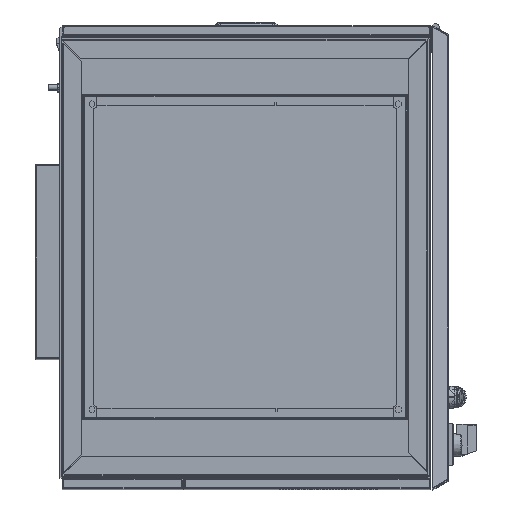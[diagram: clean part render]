
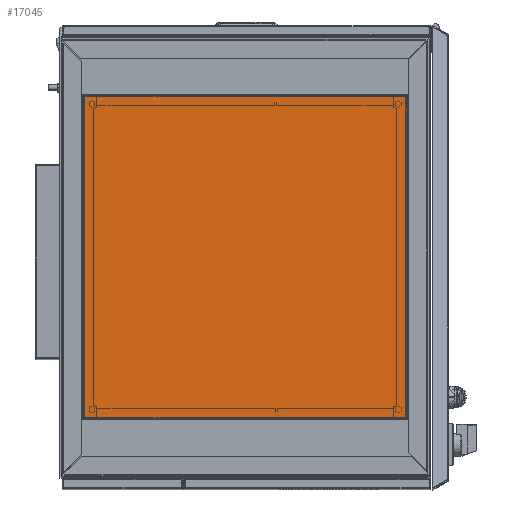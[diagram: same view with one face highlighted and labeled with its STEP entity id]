
A CAD part, top view. The second image highlights one B-rep face of the part: STEP entity #17045.
In plain terms, the highlighted planar face has unit normal (0, 0, 1).
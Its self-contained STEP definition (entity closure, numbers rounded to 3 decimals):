
#7570=FACE_OUTER_BOUND('',#31114,.T.);
#17045=ADVANCED_FACE('',(#7570),#22947,.F.);
#22947=PLANE('',#142353);
#31114=EDGE_LOOP('',(#93736,#93737,#93738,#93739,#93740,#93741,#93742,#93743,
#93744,#93745));
#45016=LINE('',#236759,#60455);
#45035=LINE('',#236800,#60474);
#45048=LINE('',#236824,#60487);
#45053=LINE('',#236833,#60492);
#45059=LINE('',#236844,#60498);
#45064=LINE('',#236853,#60503);
#45069=LINE('',#236863,#60508);
#45072=LINE('',#236868,#60511);
#45078=LINE('',#236879,#60517);
#45080=LINE('',#236882,#60519);
#60455=VECTOR('',#168340,1.);
#60474=VECTOR('',#168369,1.);
#60487=VECTOR('',#168390,1.);
#60492=VECTOR('',#168397,1.);
#60498=VECTOR('',#168411,1.);
#60503=VECTOR('',#168418,1.);
#60508=VECTOR('',#168431,1.);
#60511=VECTOR('',#168436,1.);
#60517=VECTOR('',#168448,1.);
#60519=VECTOR('',#168452,1.);
#93736=ORIENTED_EDGE('',*,*,#130398,.T.);
#93737=ORIENTED_EDGE('',*,*,#130366,.F.);
#93738=ORIENTED_EDGE('',*,*,#130419,.T.);
#93739=ORIENTED_EDGE('',*,*,#130422,.F.);
#93740=ORIENTED_EDGE('',*,*,#130414,.T.);
#93741=ORIENTED_EDGE('',*,*,#130409,.T.);
#93742=ORIENTED_EDGE('',*,*,#130385,.F.);
#93743=ORIENTED_EDGE('',*,*,#130428,.T.);
#93744=ORIENTED_EDGE('',*,*,#130430,.F.);
#93745=ORIENTED_EDGE('',*,*,#130403,.T.);
#112502=VERTEX_POINT('',#236758);
#112503=VERTEX_POINT('',#236760);
#112519=VERTEX_POINT('',#236799);
#112520=VERTEX_POINT('',#236801);
#112527=VERTEX_POINT('',#236825);
#112529=VERTEX_POINT('',#236831);
#112531=VERTEX_POINT('',#236845);
#112533=VERTEX_POINT('',#236851);
#112535=VERTEX_POINT('',#236864);
#112537=VERTEX_POINT('',#236878);
#130366=EDGE_CURVE('',#112502,#112503,#45016,.T.);
#130385=EDGE_CURVE('',#112519,#112520,#45035,.T.);
#130398=EDGE_CURVE('',#112527,#112503,#45048,.T.);
#130403=EDGE_CURVE('',#112529,#112527,#45053,.T.);
#130409=EDGE_CURVE('',#112531,#112520,#45059,.T.);
#130414=EDGE_CURVE('',#112533,#112531,#45064,.T.);
#130419=EDGE_CURVE('',#112502,#112535,#45069,.T.);
#130422=EDGE_CURVE('',#112533,#112535,#45072,.T.);
#130428=EDGE_CURVE('',#112519,#112537,#45078,.T.);
#130430=EDGE_CURVE('',#112529,#112537,#45080,.T.);
#142353=AXIS2_PLACEMENT_3D('',#236884,#168455,#168456);
#168340=DIRECTION('',(-1.,0.,0.));
#168369=DIRECTION('',(1.,0.,0.));
#168390=DIRECTION('',(1.,0.,0.));
#168397=DIRECTION('',(0.,-1.,0.));
#168411=DIRECTION('',(-1.,0.,0.));
#168418=DIRECTION('',(0.,1.,0.));
#168431=DIRECTION('',(0.,1.,0.));
#168436=DIRECTION('',(1.,0.,0.));
#168448=DIRECTION('',(0.,-1.,0.));
#168452=DIRECTION('',(-1.,0.,0.));
#168455=DIRECTION('',(0.,0.,-1.));
#168456=DIRECTION('',(0.,-1.,0.));
#236758=CARTESIAN_POINT('',(-49.373,97.994,1521.894));
#236759=CARTESIAN_POINT('',(-552.373,97.994,1521.894));
#236760=CARTESIAN_POINT('',(-51.373,97.994,1521.894));
#236799=CARTESIAN_POINT('',(-553.373,601.994,1521.894));
#236800=CARTESIAN_POINT('',(-552.373,601.994,1521.894));
#236801=CARTESIAN_POINT('',(-551.373,601.994,1521.894));
#236824=CARTESIAN_POINT('',(-301.373,97.994,1521.894));
#236825=CARTESIAN_POINT('',(-551.373,97.994,1521.894));
#236831=CARTESIAN_POINT('',(-551.373,99.994,1521.894));
#236833=CARTESIAN_POINT('',(-551.373,349.994,1521.894));
#236844=CARTESIAN_POINT('',(-301.373,601.994,1521.894));
#236845=CARTESIAN_POINT('',(-51.373,601.994,1521.894));
#236851=CARTESIAN_POINT('',(-51.373,599.994,1521.894));
#236853=CARTESIAN_POINT('',(-51.373,349.994,1521.894));
#236863=CARTESIAN_POINT('',(-49.373,349.994,1521.894));
#236864=CARTESIAN_POINT('',(-49.373,599.994,1521.894));
#236868=CARTESIAN_POINT('',(-301.373,599.994,1521.894));
#236878=CARTESIAN_POINT('',(-553.373,99.994,1521.894));
#236879=CARTESIAN_POINT('',(-553.373,349.994,1521.894));
#236882=CARTESIAN_POINT('',(-301.373,99.994,1521.894));
#236884=CARTESIAN_POINT('',(-301.373,349.994,1521.894));
